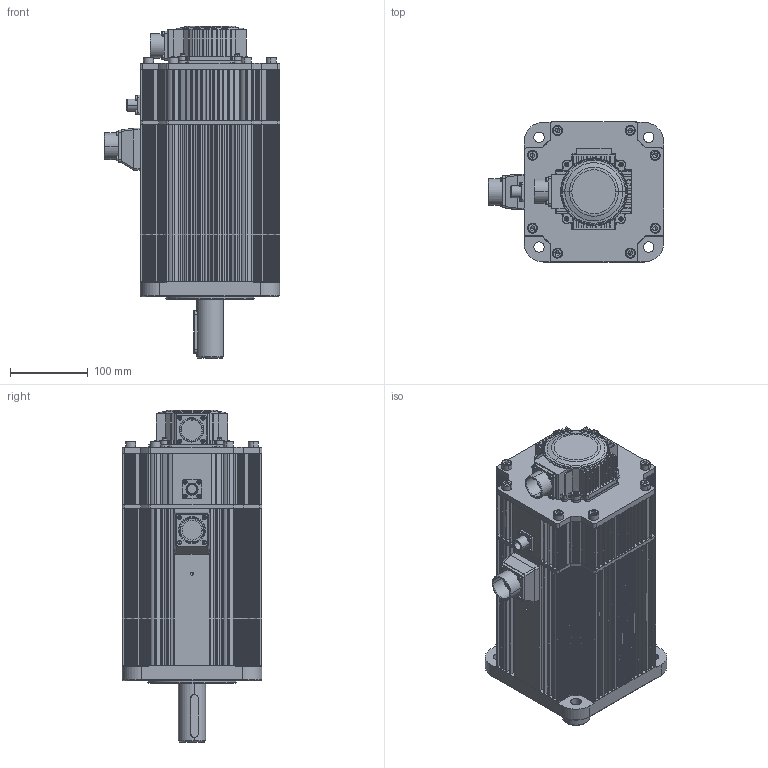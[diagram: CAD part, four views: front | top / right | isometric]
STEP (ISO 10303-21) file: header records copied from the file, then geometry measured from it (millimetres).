
FILE_DESCRIPTION (( 'STEP AP214' ), '1' );
FILE_NAME ('EMG-50（抱闸）.STEP', '2020-03-30T10:39:07', ( '' ), ( '' ), 'SwSTEP 2.0', 'SolidWorks 2018', '' );
FILE_SCHEMA (( 'AUTOMOTIVE_DESIGN' ));
Length unit declared in the file: millimetre
Products named in the file (70): hexagon socket head cap screws gb; 16; 15; 14; hexagon socket head cap screws gb_GB_FASTENER_SCREWS_HSHCS M5X16-NHDA; hexagon socket head cap screws gb_GB_FASTENER_SCREWS_HSHCS M3X16-NHDA; hexagon socket head cap screws gb_GB_FASTENER_SCREWS_HSHCS M8X25-NHDA; 12; 13; 11; 10; 9; 7; 6; 5; 3; 1; 2; 4; EMG-50ㄗ惕掅ㄘ
Assembly tree (51 placements, depth 2):
  hexagon socket head cap screws gb
  hexagon socket head cap screws gb
  hexagon socket head cap screws gb
  hexagon socket head cap screws gb
  hexagon socket head cap screws gb
Bounding box: 226.1 x 180 x 428 mm (x, y, z)
Volume: 7810830.4 mm3; surface area: 913348 mm2
Topology: 51 solids, 53 shells, 3412 faces, 8972 edges, 5715 vertices
Faces by surface type: cylinder 1507, plane 1468, cone 293, torus 144
Entity records: 86465 total; most frequent: CARTESIAN_POINT 15430, DIRECTION 15216, ORIENTED_EDGE 14112, EDGE_CURVE 7056, AXIS2_PLACEMENT_3D 5668, VERTEX_POINT 4626, VECTOR 3880, LINE 3880
